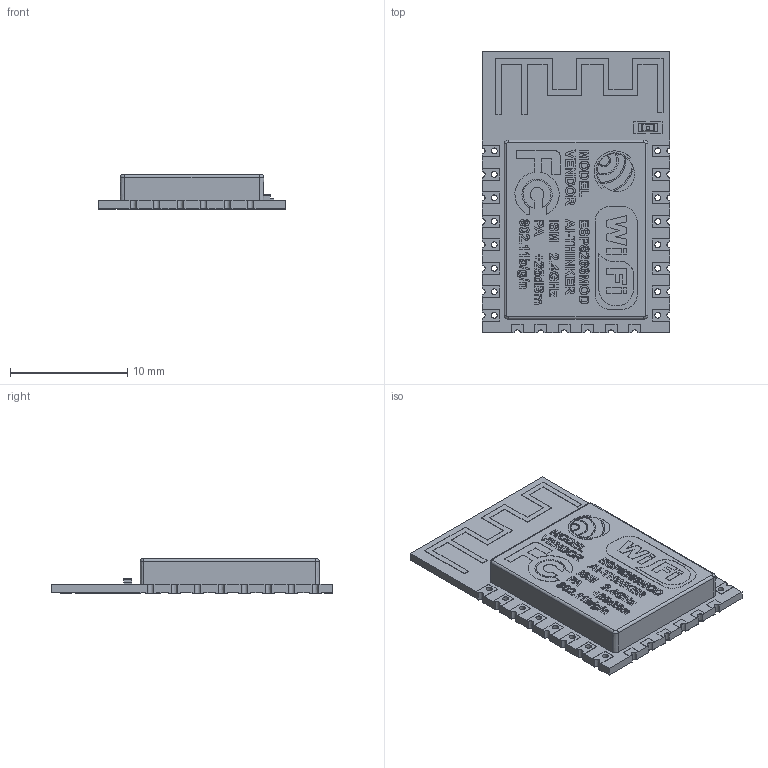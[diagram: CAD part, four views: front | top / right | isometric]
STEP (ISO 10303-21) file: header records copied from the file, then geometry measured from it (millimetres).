
FILE_DESCRIPTION(('STEP AP214'), '1');
FILE_NAME('ESP-12F', '2017-08-15T18:11:24', ('Admin'), ('Home'), 'ASCON STEP Converter 1.3', 'ASCON Math Kernel', '');
FILE_SCHEMA(('AUTOMOTIVE_DESIGN { 1 0 10303 214 3 1 1}'));
Length unit declared in the file: millimetre
Bounding box: 16 x 24 x 2.95 mm (x, y, z)
Volume: 678.8 mm3; surface area: 995.7 mm2
Topology: 1 solids, 1 shells, 3604 faces, 9918 edges, 6578 vertices
Faces by surface type: extrusion 1964, plane 1627, cylinder 9, bspline 4
Full cylindrical faces by diameter (mm): 0.3 x1
Entity records: 151457 total; most frequent: CARTESIAN_POINT 38604, ORIENTED_EDGE 19802, DIRECTION 11219, EDGE_CURVE 9901, VECTOR 7925, VERTEX_POINT 6578, LINE 5961, B_SPLINE_CURVE_WITH_KNOTS 5890
